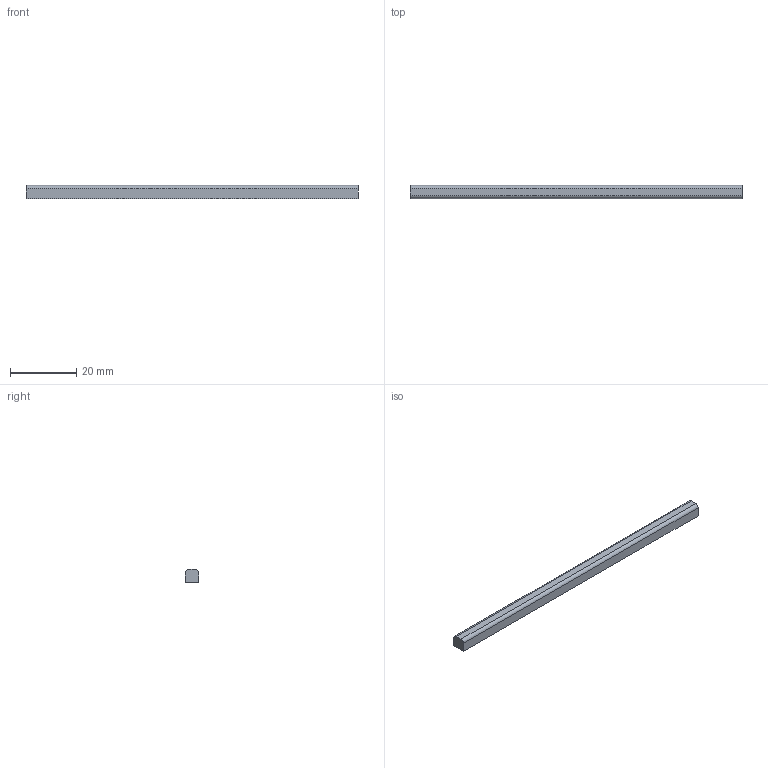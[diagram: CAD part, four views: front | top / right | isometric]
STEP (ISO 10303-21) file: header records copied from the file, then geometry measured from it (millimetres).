
FILE_DESCRIPTION(('FreeCAD Model'),'2;1');
FILE_NAME('Open CASCADE Shape Model','2023-12-15T12:05:34',('Author'),( ''),'Open CASCADE STEP processor 7.5','FreeCAD','Unknown');
FILE_SCHEMA(('AUTOMOTIVE_DESIGN { 1 0 10303 214 1 1 1 1 }'));
Length unit declared in the file: millimetre
Products named in the file (1): Fillet
Bounding box: 100 x 4 x 4 mm (x, y, z)
Volume: 1557.1 mm3; surface area: 1545.3 mm2
Topology: 1 solids, 1 shells, 8 faces, 18 edges, 12 vertices
Faces by surface type: plane 6, cylinder 2
Entity records: 488 total; most frequent: CARTESIAN_POINT 87, DIRECTION 74, LINE 46, VECTOR 46, ORIENTED_EDGE 36, PCURVE 36, DEFINITIONAL_REPRESENTATION 36, EDGE_CURVE 18
